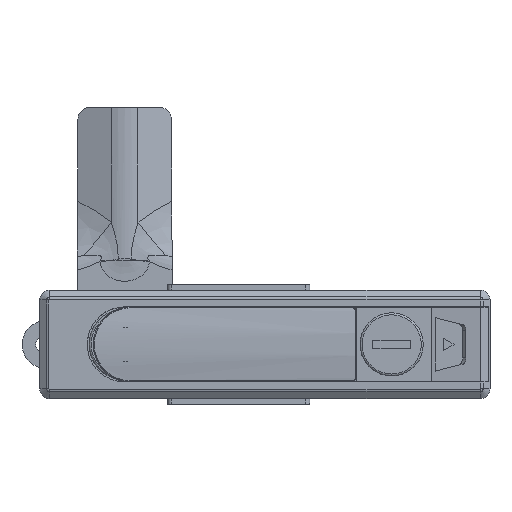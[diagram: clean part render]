
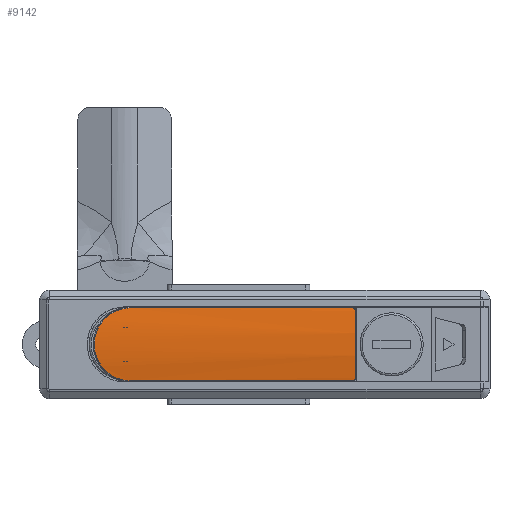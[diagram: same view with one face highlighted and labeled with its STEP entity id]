
A CAD part, top view. The second image highlights one B-rep face of the part: STEP entity #9142.
In plain terms, the highlighted cylindrical face has radius 55.625 mm (diameter 111.25 mm), a partial arc.
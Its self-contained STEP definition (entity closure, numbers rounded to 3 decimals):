
#549=B_SPLINE_CURVE_WITH_KNOTS('',3,(#14625,#14626,#14627,#14628),
 .UNSPECIFIED.,.F.,.F.,(4,4),(0.,0.043),.UNSPECIFIED.);
#551=B_SPLINE_CURVE_WITH_KNOTS('',3,(#14668,#14669,#14670,#14671,#14672),
 .UNSPECIFIED.,.F.,.F.,(4,1,4),(0.,0.054,0.126),
 .UNSPECIFIED.);
#553=B_SPLINE_CURVE_WITH_KNOTS('',3,(#14712,#14713,#14714,#14715,#14716),
 .UNSPECIFIED.,.F.,.F.,(4,1,4),(0.,0.072,
0.126),.UNSPECIFIED.);
#555=B_SPLINE_CURVE_WITH_KNOTS('',3,(#14750,#14751,#14752,#14753),
 .UNSPECIFIED.,.F.,.F.,(4,4),(0.,0.043),
 .UNSPECIFIED.);
#557=B_SPLINE_CURVE_WITH_KNOTS('',3,(#14814,#14815,#14816,#14817,#14818,
#14819,#14820,#14821,#14822,#14823),.UNSPECIFIED.,.F.,.F.,(4,1,1,1,1,1,
1,4),(0.,0.391,0.781,1.172,
1.563,1.953,2.344,2.734),
 .UNSPECIFIED.);
#1014=LINE('',#14634,#1774);
#1016=LINE('',#14722,#1776);
#1774=VECTOR('',#11676,56.48);
#1776=VECTOR('',#11694,56.48);
#2325=CYLINDRICAL_SURFACE('',#9963,55.625);
#2647=FACE_OUTER_BOUND('',#3229,.T.);
#3229=EDGE_LOOP('',(#7373,#7374,#7375,#7376,#7377,#7378,#7379,#7380));
#3844=CIRCLE('',#9953,55.625);
#4375=VERTEX_POINT('',#14615);
#4378=VERTEX_POINT('',#14623);
#4379=VERTEX_POINT('',#14630);
#4381=VERTEX_POINT('',#14660);
#4383=VERTEX_POINT('',#14674);
#4385=VERTEX_POINT('',#14704);
#4387=VERTEX_POINT('',#14718);
#4389=VERTEX_POINT('',#14743);
#5448=EDGE_CURVE('',#4378,#4375,#549,.T.);
#5451=EDGE_CURVE('',#4375,#4379,#1014,.T.);
#5454=EDGE_CURVE('',#4379,#4381,#551,.T.);
#5457=EDGE_CURVE('',#4381,#4383,#3844,.T.);
#5460=EDGE_CURVE('',#4383,#4385,#553,.T.);
#5463=EDGE_CURVE('',#4385,#4387,#1016,.T.);
#5466=EDGE_CURVE('',#4387,#4389,#555,.T.);
#5468=EDGE_CURVE('',#4389,#4378,#557,.T.);
#7373=ORIENTED_EDGE('',*,*,#5448,.F.);
#7374=ORIENTED_EDGE('',*,*,#5468,.F.);
#7375=ORIENTED_EDGE('',*,*,#5466,.F.);
#7376=ORIENTED_EDGE('',*,*,#5463,.F.);
#7377=ORIENTED_EDGE('',*,*,#5460,.F.);
#7378=ORIENTED_EDGE('',*,*,#5457,.F.);
#7379=ORIENTED_EDGE('',*,*,#5454,.F.);
#7380=ORIENTED_EDGE('',*,*,#5451,.F.);
#9142=ADVANCED_FACE('',(#2647),#2325,.T.);
#9953=AXIS2_PLACEMENT_3D('',#14678,#11685,#11686);
#9963=AXIS2_PLACEMENT_3D('',#14859,#11715,#11716);
#11676=DIRECTION('',(1.,0.,0.));
#11685=DIRECTION('center_axis',(1.,0.,0.));
#11686=DIRECTION('ref_axis',(0.,0.,1.));
#11694=DIRECTION('',(-1.,0.,0.));
#11715=DIRECTION('center_axis',(-1.,0.,0.));
#11716=DIRECTION('ref_axis',(0.,0.169,0.986));
#14615=CARTESIAN_POINT('',(9.02,9.233,-0.772));
#14623=CARTESIAN_POINT('',(8.587,9.214,-0.768));
#14625=CARTESIAN_POINT('Ctrl Pts',(8.587,9.214,-0.768));
#14626=CARTESIAN_POINT('Ctrl Pts',(8.731,9.227,-0.771));
#14627=CARTESIAN_POINT('Ctrl Pts',(8.875,9.233,-0.772));
#14628=CARTESIAN_POINT('Ctrl Pts',(9.02,9.233,-0.772));
#14630=CARTESIAN_POINT('',(65.5,9.233,-0.772));
#14634=CARTESIAN_POINT('',(66.5,9.233,-0.772));
#14660=CARTESIAN_POINT('',(66.3,8.43,-0.643));
#14668=CARTESIAN_POINT('Ctrl Pts',(65.5,9.233,-0.772));
#14669=CARTESIAN_POINT('Ctrl Pts',(65.681,9.233,-0.772));
#14670=CARTESIAN_POINT('Ctrl Pts',(66.102,9.084,-0.746));
#14671=CARTESIAN_POINT('Ctrl Pts',(66.3,8.669,-0.679));
#14672=CARTESIAN_POINT('Ctrl Pts',(66.3,8.43,-0.643));
#14674=CARTESIAN_POINT('',(66.3,-8.43,-0.643));
#14678=CARTESIAN_POINT('Origin',(66.3,0.,-55.625));
#14704=CARTESIAN_POINT('',(65.5,-9.233,-0.772));
#14712=CARTESIAN_POINT('Ctrl Pts',(66.3,-8.43,-0.643));
#14713=CARTESIAN_POINT('Ctrl Pts',(66.3,-8.669,-0.679));
#14714=CARTESIAN_POINT('Ctrl Pts',(66.102,-9.084,-0.746));
#14715=CARTESIAN_POINT('Ctrl Pts',(65.681,-9.233,-0.772));
#14716=CARTESIAN_POINT('Ctrl Pts',(65.5,-9.233,-0.772));
#14718=CARTESIAN_POINT('',(9.02,-9.233,-0.772));
#14722=CARTESIAN_POINT('',(66.5,-9.233,-0.772));
#14743=CARTESIAN_POINT('',(8.587,-9.214,-0.768));
#14750=CARTESIAN_POINT('Ctrl Pts',(9.02,-9.233,-0.772));
#14751=CARTESIAN_POINT('Ctrl Pts',(8.875,-9.233,-0.772));
#14752=CARTESIAN_POINT('Ctrl Pts',(8.731,-9.227,-0.771));
#14753=CARTESIAN_POINT('Ctrl Pts',(8.587,-9.214,-0.768));
#14814=CARTESIAN_POINT('Ctrl Pts',(8.587,-9.214,-0.768));
#14815=CARTESIAN_POINT('Ctrl Pts',(7.29,-9.096,-0.749));
#14816=CARTESIAN_POINT('Ctrl Pts',(4.751,-8.3,-0.612));
#14817=CARTESIAN_POINT('Ctrl Pts',(1.773,-5.653,-0.257));
#14818=CARTESIAN_POINT('Ctrl Pts',(0.131,-2.007,
0.011));
#14819=CARTESIAN_POINT('Ctrl Pts',(0.133,2.006,0.01));
#14820=CARTESIAN_POINT('Ctrl Pts',(1.772,5.653,-0.256));
#14821=CARTESIAN_POINT('Ctrl Pts',(4.751,8.3,-0.612));
#14822=CARTESIAN_POINT('Ctrl Pts',(7.29,9.096,-0.749));
#14823=CARTESIAN_POINT('Ctrl Pts',(8.587,9.214,-0.768));
#14859=CARTESIAN_POINT('Origin',(66.5,0.,-55.625));
